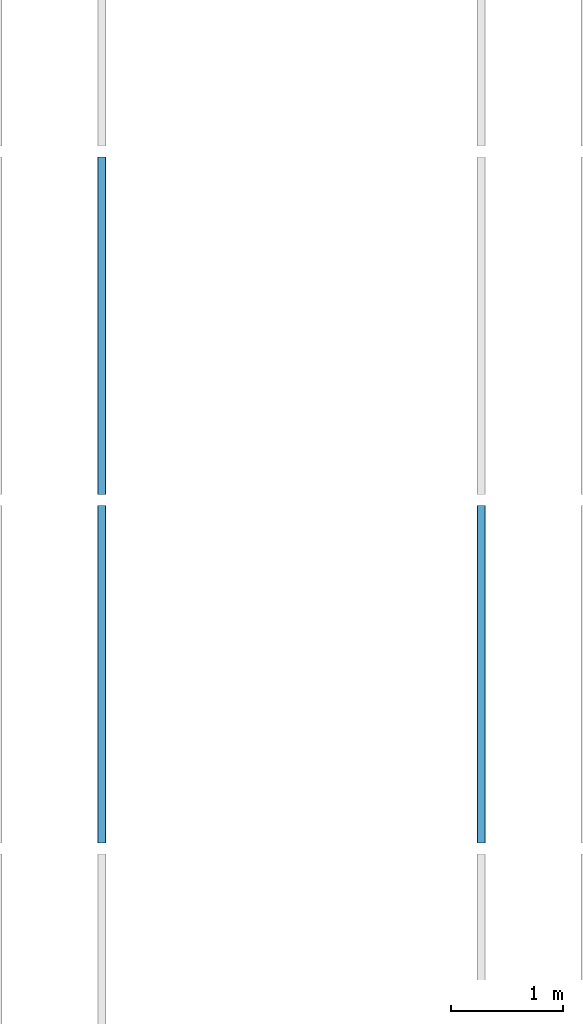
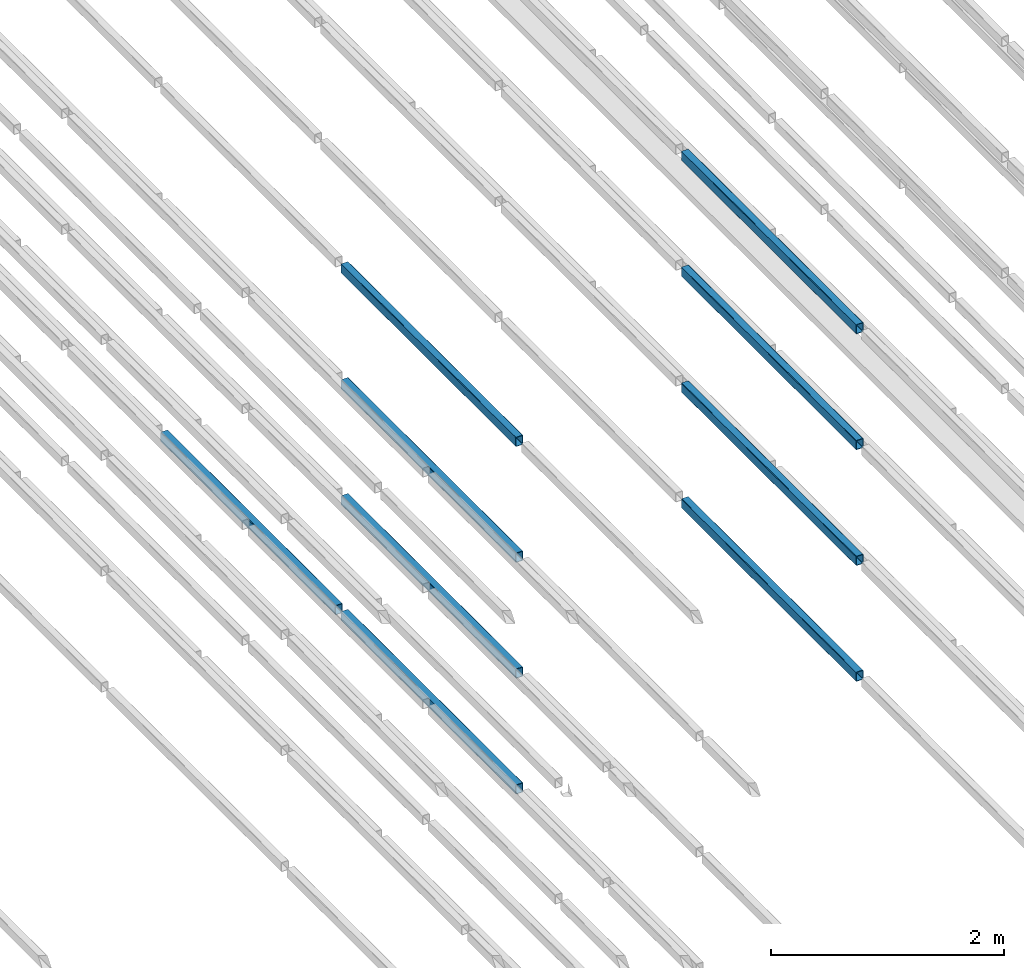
# One storey, part 71 of 290: 9 beams.
"""IFC2X3 building model written with IfcOpenShell, lengths in metres."""

from ifc_helpers import new_model, entity, si_unit, converted_unit, derived_unit, direction, frame, frame_2d, origin, place, context, subcontext, project, spatial, polyline, circle_curve, parameter, trimmed, segment, composite_curve, outline, extrude, material, type_object, element, save


model = new_model("IFC2X3")

# Units and contexts
model_context = context("Model", 3, precision=1e-05, world=origin(), true_north=direction((6.12303176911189e-17, 1.0)))
body_context = subcontext(model_context, "Body", "Model", "MODEL_VIEW")
ifc_project = project(units=[si_unit("LENGTHUNIT", "METRE"), si_unit("AREAUNIT", "SQUARE_METRE"), si_unit("VOLUMEUNIT", "CUBIC_METRE"), converted_unit("PLANEANGLEUNIT", "DEGREE", entity("IfcRatioMeasure", 0.0174532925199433), si_unit("PLANEANGLEUNIT", "RADIAN"), dimensions=[0, 0, 0, 0, 0, 0, 0]), si_unit("MASSUNIT", "GRAM", prefix="KILO"), derived_unit("MASSDENSITYUNIT", [(si_unit("MASSUNIT", "GRAM", prefix="KILO"), 1), (si_unit("LENGTHUNIT", "METRE"), -3)]), derived_unit("MOMENTOFINERTIAUNIT", [(si_unit("LENGTHUNIT", "METRE"), 4)]), si_unit("TIMEUNIT", "SECOND"), si_unit("FREQUENCYUNIT", "HERTZ"), si_unit("THERMODYNAMICTEMPERATUREUNIT", "DEGREE_CELSIUS"), derived_unit("THERMALTRANSMITTANCEUNIT", [(si_unit("MASSUNIT", "GRAM", prefix="KILO"), 1), (si_unit("THERMODYNAMICTEMPERATUREUNIT", "KELVIN"), -1), (si_unit("TIMEUNIT", "SECOND"), -3)]), derived_unit("VOLUMETRICFLOWRATEUNIT", [(si_unit("LENGTHUNIT", "METRE"), 3), (si_unit("TIMEUNIT", "SECOND"), -1)]), si_unit("ELECTRICCURRENTUNIT", "AMPERE"), si_unit("ELECTRICVOLTAGEUNIT", "VOLT"), si_unit("POWERUNIT", "WATT"), si_unit("FORCEUNIT", "NEWTON", prefix="KILO"), si_unit("ILLUMINANCEUNIT", "LUX"), si_unit("LUMINOUSFLUXUNIT", "LUMEN"), si_unit("LUMINOUSINTENSITYUNIT", "CANDELA"), derived_unit("USERDEFINED", [(si_unit("MASSUNIT", "GRAM", prefix="KILO"), -1), (si_unit("LENGTHUNIT", "METRE"), -2), (si_unit("TIMEUNIT", "SECOND"), 3), (si_unit("LUMINOUSFLUXUNIT", "LUMEN"), 1)]), derived_unit("LINEARVELOCITYUNIT", [(si_unit("LENGTHUNIT", "METRE"), 1), (si_unit("TIMEUNIT", "SECOND"), -1)]), si_unit("PRESSUREUNIT", "PASCAL"), derived_unit("USERDEFINED", [(si_unit("LENGTHUNIT", "METRE"), -2), (si_unit("MASSUNIT", "GRAM", prefix="KILO"), 1), (si_unit("TIMEUNIT", "SECOND"), -2)]), derived_unit("LINEARFORCEUNIT", [(si_unit("MASSUNIT", "GRAM", prefix="KILO"), 1), (si_unit("LENGTHUNIT", "METRE"), 1), (si_unit("TIMEUNIT", "SECOND"), -2), (si_unit("LENGTHUNIT", "METRE"), -1)]), derived_unit("PLANARFORCEUNIT", [(si_unit("MASSUNIT", "GRAM", prefix="KILO"), 1), (si_unit("LENGTHUNIT", "METRE"), 1), (si_unit("TIMEUNIT", "SECOND"), -2), (si_unit("LENGTHUNIT", "METRE"), -2)])], contexts=[model_context])

# Site, building, storey
site_placement = place(None, origin())
site = spatial("IfcSite", under=ifc_project, at=site_placement, Name="Default", CompositionType="ELEMENT")
building_placement = place(site_placement, origin())
building = spatial("IfcBuilding", under=site, at=building_placement, CompositionType="ELEMENT")
storey_placement = place(building_placement, frame((0.0, 0.0, 4.0)))
storey = spatial("IfcBuildingStorey", under=building, at=storey_placement, Name="01_OG", CompositionType="ELEMENT", Elevation=4.0)

# Beams
ifc_material = material(Name="Metall - Baustahl S235 blau")
beam_type = type_object("IfcBeamType", Name="RHS Träger (EN 10219-2):RHS 100 x 75 x 5", PredefinedType="NOTDEFINED")
beam_1_placement = place(storey_placement, frame((-182.765111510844, 30.248088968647, -1.2), z_axis=(0.0, 0.0, 1.0), x_axis=(0.0, 1.0, 0.0)))
element("IfcBeam", 1, at=beam_1_placement, inside=storey, type_object=beam_type, material=ifc_material, Name="RHS Träger (EN 10219-2):RHS 100 x 75 x 5", ObjectType="RHS Träger (EN 10219-2):RHS 100 x 75 x 5", context=body_context, shape_type="SweptSolid", body=[
    extrude(outline(composite_curve([segment(polyline([(-0.0400000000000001, -0.0374999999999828), (0.0400000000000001, -0.0374999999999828)]), True, "CONTINUOUS"), segment(trimmed(circle_curve(frame_2d((0.0400000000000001, -0.0274999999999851), x_axis=(0.0, 1.0)), 0.01), [parameter(180.0)], [parameter(270.0)], True, "PARAMETER"), True, "CONTINUOUS"), segment(polyline([(0.05, -0.0274999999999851), (0.05, 0.0274999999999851)]), True, "CONTINUOUS"), segment(trimmed(circle_curve(frame_2d((0.0400000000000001, 0.0274999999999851), x_axis=(0.0, 1.0)), 0.01), [parameter(270.0)], [parameter(4.07110999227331e-13)], True, "PARAMETER"), True, "CONTINUOUS"), segment(polyline([(0.0400000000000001, 0.0375000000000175), (-0.0400000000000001, 0.0375000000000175)]), True, "CONTINUOUS"), segment(trimmed(circle_curve(frame_2d((-0.0400000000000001, 0.0274999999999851), x_axis=(0.0, 1.0)), 0.01), [parameter(360.0)], [parameter(90.0000000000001)], True, "PARAMETER"), True, "CONTINUOUS"), segment(polyline([(-0.05, 0.0274999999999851), (-0.05, -0.0274999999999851)]), True, "CONTINUOUS"), segment(trimmed(circle_curve(frame_2d((-0.0400000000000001, -0.0274999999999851), x_axis=(0.0, 1.0)), 0.01), [parameter(90.0000000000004)], [parameter(180.0)], True, "PARAMETER"), True, "CONTINUOUS")], self_intersect=False), holes=[composite_curve([segment(trimmed(circle_curve(frame_2d((-0.0400000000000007, 0.0274999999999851), x_axis=(0.0, 1.0)), 0.005), [parameter(360.0)], [parameter(89.9999999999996)], True, "PARAMETER"), False, "CONTINUOUS"), segment(polyline([(-0.0400000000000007, 0.0325000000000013), (0.039999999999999, 0.0325000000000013)]), True, "CONTINUOUS"), segment(trimmed(circle_curve(frame_2d((0.039999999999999, 0.0274999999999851), x_axis=(0.0, 1.0)), 0.005), [parameter(270.0)], [parameter(0.0)], True, "PARAMETER"), False, "CONTINUOUS"), segment(polyline([(0.044999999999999, 0.0274999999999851), (0.044999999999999, -0.0274999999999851)]), True, "CONTINUOUS"), segment(trimmed(circle_curve(frame_2d((0.039999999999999, -0.0274999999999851), x_axis=(0.0, 1.0)), 0.005), [parameter(180.0)], [parameter(269.999999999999)], True, "PARAMETER"), False, "CONTINUOUS"), segment(polyline([(0.039999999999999, -0.0325000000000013), (-0.0400000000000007, -0.0325000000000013)]), True, "CONTINUOUS"), segment(trimmed(circle_curve(frame_2d((-0.0400000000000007, -0.0274999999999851), x_axis=(0.0, 1.0)), 0.005), [parameter(90.0000000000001)], [parameter(180.0)], True, "PARAMETER"), False, "CONTINUOUS"), segment(polyline([(-0.0450000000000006, -0.0274999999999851), (-0.0450000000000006, 0.0274999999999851)]), True, "CONTINUOUS")], self_intersect=False)]), frame((9.99999999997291e-05, -0.0375000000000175, -0.0500000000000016), z_axis=(1.0, 0.0, 0.0), x_axis=(0.0, 0.0, -1.0)), (0.0, 0.0, 1.0), 2.9998),
])
beam_2_placement = place(storey_placement, frame((-182.765111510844, 30.248088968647, 0.0150000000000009), z_axis=(0.0, 0.0, 1.0), x_axis=(0.0, 1.0, 0.0)))
element("IfcBeam", 2, at=beam_2_placement, inside=storey, type_object=beam_type, material=ifc_material, Name="RHS Träger (EN 10219-2):RHS 100 x 75 x 5", ObjectType="RHS Träger (EN 10219-2):RHS 100 x 75 x 5", context=body_context, shape_type="SweptSolid", body=[
    extrude(outline(composite_curve([segment(polyline([(-0.0400000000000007, -0.0374999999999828), (0.0399999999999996, -0.0374999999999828)]), True, "CONTINUOUS"), segment(trimmed(circle_curve(frame_2d((0.0399999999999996, -0.0274999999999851), x_axis=(0.0, 1.0)), 0.01), [parameter(180.0)], [parameter(270.0)], True, "PARAMETER"), True, "CONTINUOUS"), segment(polyline([(0.0499999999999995, -0.0274999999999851), (0.0499999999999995, 0.0274999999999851)]), True, "CONTINUOUS"), segment(trimmed(circle_curve(frame_2d((0.0399999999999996, 0.0274999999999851), x_axis=(0.0, 1.0)), 0.01), [parameter(270.0)], [parameter(4.07110999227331e-13)], True, "PARAMETER"), True, "CONTINUOUS"), segment(polyline([(0.0399999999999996, 0.0375000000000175), (-0.0400000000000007, 0.0375000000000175)]), True, "CONTINUOUS"), segment(trimmed(circle_curve(frame_2d((-0.0400000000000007, 0.0274999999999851), x_axis=(0.0, 1.0)), 0.01), [parameter(360.0)], [parameter(90.0000000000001)], True, "PARAMETER"), True, "CONTINUOUS"), segment(polyline([(-0.0500000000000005, 0.0274999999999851), (-0.0500000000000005, -0.0274999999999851)]), True, "CONTINUOUS"), segment(trimmed(circle_curve(frame_2d((-0.0400000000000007, -0.0274999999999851), x_axis=(0.0, 1.0)), 0.01), [parameter(90.0000000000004)], [parameter(180.0)], True, "PARAMETER"), True, "CONTINUOUS")], self_intersect=False), holes=[composite_curve([segment(trimmed(circle_curve(frame_2d((-0.0400000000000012, 0.0274999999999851), x_axis=(0.0, 1.0)), 0.005), [parameter(360.0)], [parameter(89.9999999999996)], True, "PARAMETER"), False, "CONTINUOUS"), segment(polyline([(-0.0400000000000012, 0.0325000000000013), (0.0399999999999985, 0.0325000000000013)]), True, "CONTINUOUS"), segment(trimmed(circle_curve(frame_2d((0.0399999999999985, 0.0274999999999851), x_axis=(0.0, 1.0)), 0.005), [parameter(270.0)], [parameter(0.0)], True, "PARAMETER"), False, "CONTINUOUS"), segment(polyline([(0.0449999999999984, 0.0274999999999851), (0.0449999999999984, -0.0274999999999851)]), True, "CONTINUOUS"), segment(trimmed(circle_curve(frame_2d((0.0399999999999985, -0.0274999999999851), x_axis=(0.0, 1.0)), 0.005), [parameter(180.0)], [parameter(269.999999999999)], True, "PARAMETER"), False, "CONTINUOUS"), segment(polyline([(0.0399999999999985, -0.0325000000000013), (-0.0400000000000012, -0.0325000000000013)]), True, "CONTINUOUS"), segment(trimmed(circle_curve(frame_2d((-0.0400000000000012, -0.0274999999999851), x_axis=(0.0, 1.0)), 0.005), [parameter(90.0000000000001)], [parameter(180.0)], True, "PARAMETER"), False, "CONTINUOUS"), segment(polyline([(-0.0450000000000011, -0.0274999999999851), (-0.0450000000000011, 0.0274999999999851)]), True, "CONTINUOUS")], self_intersect=False)]), frame((9.99999999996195e-05, -0.0375000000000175, -0.0500000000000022), z_axis=(1.0, 0.0, 0.0), x_axis=(0.0, 0.0, -1.0)), (0.0, 0.0, 1.0), 2.9998),
])
beam_3_placement = place(storey_placement, frame((-182.765111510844, 30.248088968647, 1.23), z_axis=(0.0, 0.0, 1.0), x_axis=(0.0, 1.0, 0.0)))
element("IfcBeam", 3, at=beam_3_placement, inside=storey, type_object=beam_type, material=ifc_material, Name="RHS Träger (EN 10219-2):RHS 100 x 75 x 5", ObjectType="RHS Träger (EN 10219-2):RHS 100 x 75 x 5", context=body_context, shape_type="SweptSolid", body=[
    extrude(outline(composite_curve([segment(polyline([(-0.0399999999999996, -0.0374999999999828), (0.0399999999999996, -0.0374999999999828)]), True, "CONTINUOUS"), segment(trimmed(circle_curve(frame_2d((0.0399999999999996, -0.0274999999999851), x_axis=(0.0, 1.0)), 0.01), [parameter(180.0)], [parameter(270.0)], True, "PARAMETER"), True, "CONTINUOUS"), segment(polyline([(0.0500000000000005, -0.0274999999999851), (0.0500000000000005, 0.0274999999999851)]), True, "CONTINUOUS"), segment(trimmed(circle_curve(frame_2d((0.0399999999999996, 0.0274999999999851), x_axis=(0.0, 1.0)), 0.01), [parameter(270.0)], [parameter(4.07110999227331e-13)], True, "PARAMETER"), True, "CONTINUOUS"), segment(polyline([(0.0399999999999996, 0.0375000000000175), (-0.0399999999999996, 0.0375000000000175)]), True, "CONTINUOUS"), segment(trimmed(circle_curve(frame_2d((-0.0399999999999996, 0.0274999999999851), x_axis=(0.0, 1.0)), 0.01), [parameter(360.0)], [parameter(90.0000000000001)], True, "PARAMETER"), True, "CONTINUOUS"), segment(polyline([(-0.0499999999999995, 0.0274999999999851), (-0.0499999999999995, -0.0274999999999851)]), True, "CONTINUOUS"), segment(trimmed(circle_curve(frame_2d((-0.0399999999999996, -0.0274999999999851), x_axis=(0.0, 1.0)), 0.01), [parameter(90.0000000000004)], [parameter(180.0)], True, "PARAMETER"), True, "CONTINUOUS")], self_intersect=False), holes=[composite_curve([segment(trimmed(circle_curve(frame_2d((-0.0400000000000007, 0.0274999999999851), x_axis=(0.0, 1.0)), 0.005), [parameter(360.0)], [parameter(89.9999999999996)], True, "PARAMETER"), False, "CONTINUOUS"), segment(polyline([(-0.0400000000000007, 0.0325000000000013), (0.0399999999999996, 0.0325000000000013)]), True, "CONTINUOUS"), segment(trimmed(circle_curve(frame_2d((0.0399999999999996, 0.0274999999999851), x_axis=(0.0, 1.0)), 0.005), [parameter(270.0)], [parameter(0.0)], True, "PARAMETER"), False, "CONTINUOUS"), segment(polyline([(0.0449999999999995, 0.0274999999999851), (0.0449999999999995, -0.0274999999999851)]), True, "CONTINUOUS"), segment(trimmed(circle_curve(frame_2d((0.0399999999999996, -0.0274999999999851), x_axis=(0.0, 1.0)), 0.005), [parameter(180.0)], [parameter(269.999999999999)], True, "PARAMETER"), False, "CONTINUOUS"), segment(polyline([(0.0399999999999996, -0.0325000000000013), (-0.0400000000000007, -0.0325000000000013)]), True, "CONTINUOUS"), segment(trimmed(circle_curve(frame_2d((-0.0400000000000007, -0.0274999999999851), x_axis=(0.0, 1.0)), 0.005), [parameter(90.0000000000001)], [parameter(180.0)], True, "PARAMETER"), False, "CONTINUOUS"), segment(polyline([(-0.0450000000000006, -0.0274999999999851), (-0.0450000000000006, 0.0274999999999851)]), True, "CONTINUOUS")], self_intersect=False)]), frame((9.99999999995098e-05, -0.0375000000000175, -0.0500000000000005), z_axis=(1.0, 0.0, 0.0), x_axis=(0.0, 0.0, -1.0)), (0.0, 0.0, 1.0), 2.9998),
])
beam_4_placement = place(storey_placement, frame((-182.765111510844, 30.248088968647, 2.445), z_axis=(0.0, 0.0, 1.0), x_axis=(0.0, 1.0, 0.0)))
element("IfcBeam", 4, at=beam_4_placement, inside=storey, type_object=beam_type, material=ifc_material, Name="RHS Träger (EN 10219-2):RHS 100 x 75 x 5", ObjectType="RHS Träger (EN 10219-2):RHS 100 x 75 x 5", context=body_context, shape_type="SweptSolid", body=[
    extrude(outline(composite_curve([segment(polyline([(-0.0399999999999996, -0.0374999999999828), (0.0399999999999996, -0.0374999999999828)]), True, "CONTINUOUS"), segment(trimmed(circle_curve(frame_2d((0.0399999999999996, -0.0274999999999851), x_axis=(0.0, 1.0)), 0.01), [parameter(180.0)], [parameter(270.0)], True, "PARAMETER"), True, "CONTINUOUS"), segment(polyline([(0.0500000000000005, -0.0274999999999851), (0.0500000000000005, 0.0274999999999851)]), True, "CONTINUOUS"), segment(trimmed(circle_curve(frame_2d((0.0399999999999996, 0.0274999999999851), x_axis=(0.0, 1.0)), 0.01), [parameter(270.0)], [parameter(4.07110999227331e-13)], True, "PARAMETER"), True, "CONTINUOUS"), segment(polyline([(0.0399999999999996, 0.0375000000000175), (-0.0399999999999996, 0.0375000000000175)]), True, "CONTINUOUS"), segment(trimmed(circle_curve(frame_2d((-0.0399999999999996, 0.0274999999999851), x_axis=(0.0, 1.0)), 0.01), [parameter(360.0)], [parameter(90.0000000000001)], True, "PARAMETER"), True, "CONTINUOUS"), segment(polyline([(-0.0499999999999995, 0.0274999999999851), (-0.0499999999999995, -0.0274999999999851)]), True, "CONTINUOUS"), segment(trimmed(circle_curve(frame_2d((-0.0399999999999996, -0.0274999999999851), x_axis=(0.0, 1.0)), 0.01), [parameter(90.0000000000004)], [parameter(180.0)], True, "PARAMETER"), True, "CONTINUOUS")], self_intersect=False), holes=[composite_curve([segment(trimmed(circle_curve(frame_2d((-0.0400000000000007, 0.0274999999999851), x_axis=(0.0, 1.0)), 0.005), [parameter(360.0)], [parameter(89.9999999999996)], True, "PARAMETER"), False, "CONTINUOUS"), segment(polyline([(-0.0400000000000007, 0.0325000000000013), (0.0399999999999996, 0.0325000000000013)]), True, "CONTINUOUS"), segment(trimmed(circle_curve(frame_2d((0.0399999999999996, 0.0274999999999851), x_axis=(0.0, 1.0)), 0.005), [parameter(270.0)], [parameter(0.0)], True, "PARAMETER"), False, "CONTINUOUS"), segment(polyline([(0.0449999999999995, 0.0274999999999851), (0.0449999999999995, -0.0274999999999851)]), True, "CONTINUOUS"), segment(trimmed(circle_curve(frame_2d((0.0399999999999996, -0.0274999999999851), x_axis=(0.0, 1.0)), 0.005), [parameter(180.0)], [parameter(269.999999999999)], True, "PARAMETER"), False, "CONTINUOUS"), segment(polyline([(0.0399999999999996, -0.0325000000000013), (-0.0400000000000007, -0.0325000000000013)]), True, "CONTINUOUS"), segment(trimmed(circle_curve(frame_2d((-0.0400000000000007, -0.0274999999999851), x_axis=(0.0, 1.0)), 0.005), [parameter(90.0000000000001)], [parameter(180.0)], True, "PARAMETER"), False, "CONTINUOUS"), segment(polyline([(-0.0450000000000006, -0.0274999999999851), (-0.0450000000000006, 0.0274999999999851)]), True, "CONTINUOUS")], self_intersect=False)]), frame((9.99999999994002e-05, -0.0375000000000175, -0.0500000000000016), z_axis=(1.0, 0.0, 0.0), x_axis=(0.0, 0.0, -1.0)), (0.0, 0.0, 1.0), 2.9998),
])
beam_5_placement = place(storey_placement, frame((-179.315111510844, 30.248088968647, -1.2), z_axis=(0.0, 0.0, 1.0), x_axis=(0.0, 1.0, 0.0)))
element("IfcBeam", 5, at=beam_5_placement, inside=storey, type_object=beam_type, material=ifc_material, Name="RHS Träger (EN 10219-2):RHS 100 x 75 x 5", ObjectType="RHS Träger (EN 10219-2):RHS 100 x 75 x 5", context=body_context, shape_type="SweptSolid", body=[
    extrude(outline(composite_curve([segment(trimmed(circle_curve(frame_2d((-0.0274999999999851, -0.0400000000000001), x_axis=(1.0, 0.0)), 0.01), [parameter(180.0)], [parameter(270.0)], True, "PARAMETER"), True, "CONTINUOUS"), segment(polyline([(-0.0274999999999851, -0.05), (0.0274999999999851, -0.05)]), True, "CONTINUOUS"), segment(trimmed(circle_curve(frame_2d((0.0274999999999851, -0.0400000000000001), x_axis=(1.0, 0.0)), 0.01), [parameter(270.0)], [parameter(5.08888749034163e-14)], True, "PARAMETER"), True, "CONTINUOUS"), segment(polyline([(0.0375000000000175, -0.0400000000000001), (0.0375000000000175, 0.0400000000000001)]), True, "CONTINUOUS"), segment(trimmed(circle_curve(frame_2d((0.0274999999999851, 0.0400000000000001), x_axis=(1.0, 0.0)), 0.01), [parameter(360.0)], [parameter(89.9999999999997)], True, "PARAMETER"), True, "CONTINUOUS"), segment(polyline([(0.0274999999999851, 0.05), (-0.0274999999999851, 0.05)]), True, "CONTINUOUS"), segment(trimmed(circle_curve(frame_2d((-0.0274999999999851, 0.0400000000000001), x_axis=(1.0, 0.0)), 0.01), [parameter(90.0000000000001)], [parameter(180.0)], True, "PARAMETER"), True, "CONTINUOUS"), segment(polyline([(-0.0374999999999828, 0.0400000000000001), (-0.0374999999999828, -0.0400000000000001)]), True, "CONTINUOUS")], self_intersect=False), holes=[composite_curve([segment(polyline([(0.0274999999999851, -0.0450000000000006), (-0.0274999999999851, -0.0450000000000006)]), True, "CONTINUOUS"), segment(trimmed(circle_curve(frame_2d((-0.0274999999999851, -0.0400000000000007), x_axis=(1.0, 0.0)), 0.005), [parameter(180.0)], [parameter(270.0)], True, "PARAMETER"), False, "CONTINUOUS"), segment(polyline([(-0.0325000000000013, -0.0400000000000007), (-0.0325000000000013, 0.039999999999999)]), True, "CONTINUOUS"), segment(trimmed(circle_curve(frame_2d((-0.0274999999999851, 0.039999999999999), x_axis=(1.0, 0.0)), 0.005), [parameter(90.0000000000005)], [parameter(180.0)], True, "PARAMETER"), False, "CONTINUOUS"), segment(polyline([(-0.0274999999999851, 0.044999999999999), (0.0274999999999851, 0.044999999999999)]), True, "CONTINUOUS"), segment(trimmed(circle_curve(frame_2d((0.0274999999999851, 0.039999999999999), x_axis=(1.0, 0.0)), 0.005), [parameter(0.0)], [parameter(90.0000000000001)], True, "PARAMETER"), False, "CONTINUOUS"), segment(polyline([(0.0325000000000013, 0.039999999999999), (0.0325000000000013, -0.0400000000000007)]), True, "CONTINUOUS"), segment(trimmed(circle_curve(frame_2d((0.0274999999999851, -0.0400000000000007), x_axis=(1.0, 0.0)), 0.005), [parameter(270.0)], [parameter(4.07110999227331e-13)], True, "PARAMETER"), False, "CONTINUOUS")], self_intersect=False)]), frame((0.000100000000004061, 0.0375000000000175, -0.0500000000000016), z_axis=(1.0, 0.0, 0.0), x_axis=(0.0, -1.0, 0.0)), (0.0, 0.0, 1.0), 2.9998),
])
beam_6_placement = place(storey_placement, frame((-179.315111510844, 30.248088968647, 0.0150000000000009), z_axis=(0.0, 0.0, 1.0), x_axis=(0.0, 1.0, 0.0)))
element("IfcBeam", 6, at=beam_6_placement, inside=storey, type_object=beam_type, material=ifc_material, Name="RHS Träger (EN 10219-2):RHS 100 x 75 x 5", ObjectType="RHS Träger (EN 10219-2):RHS 100 x 75 x 5", context=body_context, shape_type="SweptSolid", body=[
    extrude(outline(composite_curve([segment(trimmed(circle_curve(frame_2d((-0.0274999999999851, -0.0400000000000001), x_axis=(1.0, 0.0)), 0.01), [parameter(180.0)], [parameter(270.0)], True, "PARAMETER"), True, "CONTINUOUS"), segment(polyline([(-0.0274999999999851, -0.05), (0.0274999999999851, -0.05)]), True, "CONTINUOUS"), segment(trimmed(circle_curve(frame_2d((0.0274999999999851, -0.0400000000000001), x_axis=(1.0, 0.0)), 0.01), [parameter(270.0)], [parameter(5.08888749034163e-14)], True, "PARAMETER"), True, "CONTINUOUS"), segment(polyline([(0.0375000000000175, -0.0400000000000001), (0.0375000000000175, 0.0400000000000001)]), True, "CONTINUOUS"), segment(trimmed(circle_curve(frame_2d((0.0274999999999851, 0.0400000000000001), x_axis=(1.0, 0.0)), 0.01), [parameter(360.0)], [parameter(89.9999999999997)], True, "PARAMETER"), True, "CONTINUOUS"), segment(polyline([(0.0274999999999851, 0.05), (-0.0274999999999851, 0.05)]), True, "CONTINUOUS"), segment(trimmed(circle_curve(frame_2d((-0.0274999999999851, 0.0400000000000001), x_axis=(1.0, 0.0)), 0.01), [parameter(90.0000000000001)], [parameter(180.0)], True, "PARAMETER"), True, "CONTINUOUS"), segment(polyline([(-0.0374999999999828, 0.0400000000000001), (-0.0374999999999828, -0.0400000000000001)]), True, "CONTINUOUS")], self_intersect=False), holes=[composite_curve([segment(polyline([(0.0274999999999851, -0.0450000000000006), (-0.0274999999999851, -0.0450000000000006)]), True, "CONTINUOUS"), segment(trimmed(circle_curve(frame_2d((-0.0274999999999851, -0.0400000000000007), x_axis=(1.0, 0.0)), 0.005), [parameter(180.0)], [parameter(270.0)], True, "PARAMETER"), False, "CONTINUOUS"), segment(polyline([(-0.0325000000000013, -0.0400000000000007), (-0.0325000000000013, 0.039999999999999)]), True, "CONTINUOUS"), segment(trimmed(circle_curve(frame_2d((-0.0274999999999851, 0.039999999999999), x_axis=(1.0, 0.0)), 0.005), [parameter(90.0000000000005)], [parameter(180.0)], True, "PARAMETER"), False, "CONTINUOUS"), segment(polyline([(-0.0274999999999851, 0.044999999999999), (0.0274999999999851, 0.044999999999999)]), True, "CONTINUOUS"), segment(trimmed(circle_curve(frame_2d((0.0274999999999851, 0.039999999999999), x_axis=(1.0, 0.0)), 0.005), [parameter(0.0)], [parameter(90.0000000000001)], True, "PARAMETER"), False, "CONTINUOUS"), segment(polyline([(0.0325000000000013, 0.039999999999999), (0.0325000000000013, -0.0400000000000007)]), True, "CONTINUOUS"), segment(trimmed(circle_curve(frame_2d((0.0274999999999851, -0.0400000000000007), x_axis=(1.0, 0.0)), 0.005), [parameter(270.0)], [parameter(4.07110999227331e-13)], True, "PARAMETER"), False, "CONTINUOUS")], self_intersect=False)]), frame((0.000100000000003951, 0.0375000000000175, -0.0500000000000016), z_axis=(1.0, 0.0, 0.0), x_axis=(0.0, -1.0, 0.0)), (0.0, 0.0, 1.0), 2.9998),
])
beam_7_placement = place(storey_placement, frame((-179.315111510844, 30.248088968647, 1.23), z_axis=(0.0, 0.0, 1.0), x_axis=(0.0, 1.0, 0.0)))
element("IfcBeam", 7, at=beam_7_placement, inside=storey, type_object=beam_type, material=ifc_material, Name="RHS Träger (EN 10219-2):RHS 100 x 75 x 5", ObjectType="RHS Träger (EN 10219-2):RHS 100 x 75 x 5", context=body_context, shape_type="SweptSolid", body=[
    extrude(outline(composite_curve([segment(trimmed(circle_curve(frame_2d((-0.0274999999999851, -0.0399999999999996), x_axis=(1.0, 0.0)), 0.01), [parameter(180.0)], [parameter(270.0)], True, "PARAMETER"), True, "CONTINUOUS"), segment(polyline([(-0.0274999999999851, -0.0499999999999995), (0.0274999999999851, -0.0499999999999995)]), True, "CONTINUOUS"), segment(trimmed(circle_curve(frame_2d((0.0274999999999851, -0.0399999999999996), x_axis=(1.0, 0.0)), 0.01), [parameter(270.0)], [parameter(5.08888749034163e-14)], True, "PARAMETER"), True, "CONTINUOUS"), segment(polyline([(0.0375000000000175, -0.0399999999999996), (0.0375000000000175, 0.0399999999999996)]), True, "CONTINUOUS"), segment(trimmed(circle_curve(frame_2d((0.0274999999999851, 0.0399999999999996), x_axis=(1.0, 0.0)), 0.01), [parameter(360.0)], [parameter(89.9999999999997)], True, "PARAMETER"), True, "CONTINUOUS"), segment(polyline([(0.0274999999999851, 0.0500000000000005), (-0.0274999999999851, 0.0500000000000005)]), True, "CONTINUOUS"), segment(trimmed(circle_curve(frame_2d((-0.0274999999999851, 0.0399999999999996), x_axis=(1.0, 0.0)), 0.01), [parameter(90.0000000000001)], [parameter(180.0)], True, "PARAMETER"), True, "CONTINUOUS"), segment(polyline([(-0.0374999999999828, 0.0399999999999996), (-0.0374999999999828, -0.0399999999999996)]), True, "CONTINUOUS")], self_intersect=False), holes=[composite_curve([segment(polyline([(0.0274999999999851, -0.0450000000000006), (-0.0274999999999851, -0.0450000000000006)]), True, "CONTINUOUS"), segment(trimmed(circle_curve(frame_2d((-0.0274999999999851, -0.0400000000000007), x_axis=(1.0, 0.0)), 0.005), [parameter(180.0)], [parameter(270.0)], True, "PARAMETER"), False, "CONTINUOUS"), segment(polyline([(-0.0325000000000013, -0.0400000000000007), (-0.0325000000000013, 0.0399999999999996)]), True, "CONTINUOUS"), segment(trimmed(circle_curve(frame_2d((-0.0274999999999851, 0.0399999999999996), x_axis=(1.0, 0.0)), 0.005), [parameter(90.0000000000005)], [parameter(180.0)], True, "PARAMETER"), False, "CONTINUOUS"), segment(polyline([(-0.0274999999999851, 0.0449999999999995), (0.0274999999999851, 0.0449999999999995)]), True, "CONTINUOUS"), segment(trimmed(circle_curve(frame_2d((0.0274999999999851, 0.0399999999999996), x_axis=(1.0, 0.0)), 0.005), [parameter(0.0)], [parameter(90.0000000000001)], True, "PARAMETER"), False, "CONTINUOUS"), segment(polyline([(0.0325000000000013, 0.0399999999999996), (0.0325000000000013, -0.0400000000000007)]), True, "CONTINUOUS"), segment(trimmed(circle_curve(frame_2d((0.0274999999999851, -0.0400000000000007), x_axis=(1.0, 0.0)), 0.005), [parameter(270.0)], [parameter(4.07110999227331e-13)], True, "PARAMETER"), False, "CONTINUOUS")], self_intersect=False)]), frame((0.000100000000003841, 0.0375000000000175, -0.0500000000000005), z_axis=(1.0, 0.0, 0.0), x_axis=(0.0, -1.0, 0.0)), (0.0, 0.0, 1.0), 2.9998),
])
beam_8_placement = place(storey_placement, frame((-179.315111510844, 30.248088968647, 2.445), z_axis=(0.0, 0.0, 1.0), x_axis=(0.0, 1.0, 0.0)))
element("IfcBeam", 8, at=beam_8_placement, inside=storey, type_object=beam_type, material=ifc_material, Name="RHS Träger (EN 10219-2):RHS 100 x 75 x 5", ObjectType="RHS Träger (EN 10219-2):RHS 100 x 75 x 5", context=body_context, shape_type="SweptSolid", body=[
    extrude(outline(composite_curve([segment(trimmed(circle_curve(frame_2d((-0.0274999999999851, -0.0399999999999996), x_axis=(1.0, 0.0)), 0.01), [parameter(180.0)], [parameter(270.0)], True, "PARAMETER"), True, "CONTINUOUS"), segment(polyline([(-0.0274999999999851, -0.0499999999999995), (0.0274999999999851, -0.0499999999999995)]), True, "CONTINUOUS"), segment(trimmed(circle_curve(frame_2d((0.0274999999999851, -0.0399999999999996), x_axis=(1.0, 0.0)), 0.01), [parameter(270.0)], [parameter(5.08888749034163e-14)], True, "PARAMETER"), True, "CONTINUOUS"), segment(polyline([(0.0375000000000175, -0.0399999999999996), (0.0375000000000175, 0.0399999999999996)]), True, "CONTINUOUS"), segment(trimmed(circle_curve(frame_2d((0.0274999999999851, 0.0399999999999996), x_axis=(1.0, 0.0)), 0.01), [parameter(360.0)], [parameter(89.9999999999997)], True, "PARAMETER"), True, "CONTINUOUS"), segment(polyline([(0.0274999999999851, 0.0500000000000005), (-0.0274999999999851, 0.0500000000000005)]), True, "CONTINUOUS"), segment(trimmed(circle_curve(frame_2d((-0.0274999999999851, 0.0399999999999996), x_axis=(1.0, 0.0)), 0.01), [parameter(90.0000000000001)], [parameter(180.0)], True, "PARAMETER"), True, "CONTINUOUS"), segment(polyline([(-0.0374999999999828, 0.0399999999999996), (-0.0374999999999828, -0.0399999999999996)]), True, "CONTINUOUS")], self_intersect=False), holes=[composite_curve([segment(polyline([(0.0274999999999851, -0.0450000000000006), (-0.0274999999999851, -0.0450000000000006)]), True, "CONTINUOUS"), segment(trimmed(circle_curve(frame_2d((-0.0274999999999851, -0.0400000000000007), x_axis=(1.0, 0.0)), 0.005), [parameter(180.0)], [parameter(270.0)], True, "PARAMETER"), False, "CONTINUOUS"), segment(polyline([(-0.0325000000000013, -0.0400000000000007), (-0.0325000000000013, 0.0399999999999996)]), True, "CONTINUOUS"), segment(trimmed(circle_curve(frame_2d((-0.0274999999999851, 0.0399999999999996), x_axis=(1.0, 0.0)), 0.005), [parameter(90.0000000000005)], [parameter(180.0)], True, "PARAMETER"), False, "CONTINUOUS"), segment(polyline([(-0.0274999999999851, 0.0449999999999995), (0.0274999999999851, 0.0449999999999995)]), True, "CONTINUOUS"), segment(trimmed(circle_curve(frame_2d((0.0274999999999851, 0.0399999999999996), x_axis=(1.0, 0.0)), 0.005), [parameter(0.0)], [parameter(90.0000000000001)], True, "PARAMETER"), False, "CONTINUOUS"), segment(polyline([(0.0325000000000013, 0.0399999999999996), (0.0325000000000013, -0.0400000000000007)]), True, "CONTINUOUS"), segment(trimmed(circle_curve(frame_2d((0.0274999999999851, -0.0400000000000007), x_axis=(1.0, 0.0)), 0.005), [parameter(270.0)], [parameter(4.07110999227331e-13)], True, "PARAMETER"), False, "CONTINUOUS")], self_intersect=False)]), frame((0.000100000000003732, 0.0375000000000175, -0.0500000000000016), z_axis=(1.0, 0.0, 0.0), x_axis=(0.0, -1.0, 0.0)), (0.0, 0.0, 1.0), 2.9998),
])
beam_9_placement = place(storey_placement, frame((-182.765111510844, 33.348088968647, -1.2), z_axis=(0.0, 0.0, 1.0), x_axis=(0.0, 1.0, 0.0)))
element("IfcBeam", 9, at=beam_9_placement, inside=storey, type_object=beam_type, material=ifc_material, Name="RHS Träger (EN 10219-2):RHS 100 x 75 x 5", ObjectType="RHS Träger (EN 10219-2):RHS 100 x 75 x 5", context=body_context, shape_type="SweptSolid", body=[
    extrude(outline(composite_curve([segment(polyline([(-0.0400000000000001, -0.0374999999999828), (0.0400000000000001, -0.0374999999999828)]), True, "CONTINUOUS"), segment(trimmed(circle_curve(frame_2d((0.0400000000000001, -0.0274999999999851), x_axis=(0.0, 1.0)), 0.01), [parameter(180.0)], [parameter(270.0)], True, "PARAMETER"), True, "CONTINUOUS"), segment(polyline([(0.05, -0.0274999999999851), (0.05, 0.0274999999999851)]), True, "CONTINUOUS"), segment(trimmed(circle_curve(frame_2d((0.0400000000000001, 0.0274999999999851), x_axis=(0.0, 1.0)), 0.01), [parameter(270.0)], [parameter(4.07110999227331e-13)], True, "PARAMETER"), True, "CONTINUOUS"), segment(polyline([(0.0400000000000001, 0.0375000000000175), (-0.0400000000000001, 0.0375000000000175)]), True, "CONTINUOUS"), segment(trimmed(circle_curve(frame_2d((-0.0400000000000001, 0.0274999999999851), x_axis=(0.0, 1.0)), 0.01), [parameter(360.0)], [parameter(90.0000000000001)], True, "PARAMETER"), True, "CONTINUOUS"), segment(polyline([(-0.05, 0.0274999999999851), (-0.05, -0.0274999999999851)]), True, "CONTINUOUS"), segment(trimmed(circle_curve(frame_2d((-0.0400000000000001, -0.0274999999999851), x_axis=(0.0, 1.0)), 0.01), [parameter(90.0000000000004)], [parameter(180.0)], True, "PARAMETER"), True, "CONTINUOUS")], self_intersect=False), holes=[composite_curve([segment(trimmed(circle_curve(frame_2d((-0.0400000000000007, 0.0274999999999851), x_axis=(0.0, 1.0)), 0.005), [parameter(360.0)], [parameter(89.9999999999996)], True, "PARAMETER"), False, "CONTINUOUS"), segment(polyline([(-0.0400000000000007, 0.0325000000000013), (0.039999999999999, 0.0325000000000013)]), True, "CONTINUOUS"), segment(trimmed(circle_curve(frame_2d((0.039999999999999, 0.0274999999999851), x_axis=(0.0, 1.0)), 0.005), [parameter(270.0)], [parameter(0.0)], True, "PARAMETER"), False, "CONTINUOUS"), segment(polyline([(0.044999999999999, 0.0274999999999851), (0.044999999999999, -0.0274999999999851)]), True, "CONTINUOUS"), segment(trimmed(circle_curve(frame_2d((0.039999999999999, -0.0274999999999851), x_axis=(0.0, 1.0)), 0.005), [parameter(180.0)], [parameter(269.999999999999)], True, "PARAMETER"), False, "CONTINUOUS"), segment(polyline([(0.039999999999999, -0.0325000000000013), (-0.0400000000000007, -0.0325000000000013)]), True, "CONTINUOUS"), segment(trimmed(circle_curve(frame_2d((-0.0400000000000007, -0.0274999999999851), x_axis=(0.0, 1.0)), 0.005), [parameter(90.0000000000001)], [parameter(180.0)], True, "PARAMETER"), False, "CONTINUOUS"), segment(polyline([(-0.0450000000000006, -0.0274999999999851), (-0.0450000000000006, 0.0274999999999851)]), True, "CONTINUOUS")], self_intersect=False)]), frame((9.99999999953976e-05, -0.0375000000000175, -0.0500000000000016), z_axis=(1.0, 0.0, 0.0), x_axis=(0.0, 0.0, -1.0)), (0.0, 0.0, 1.0), 2.9998),
])

save(model, "model.ifc")
